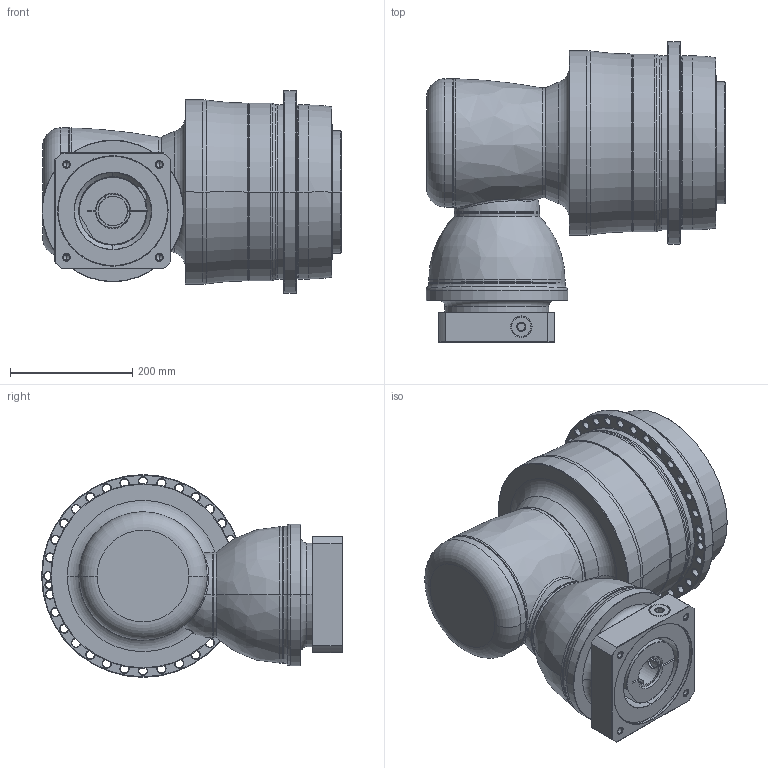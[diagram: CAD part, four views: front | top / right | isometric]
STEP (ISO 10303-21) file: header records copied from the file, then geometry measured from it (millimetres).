
FILE_DESCRIPTION((''),'2;1');
FILE_NAME('APK285_3ST_48-P0409B10201_ASM','2018-11-22T',('D00080'),(''),'PRO/ENGINEER BY PARAMETRIC TECHNOLOGY CORPORATION, 2015240','PRO/ENGINEER BY PARAMETRIC TECHNOLOGY CORPORATION, 2015240','');
FILE_SCHEMA(('CONFIG_CONTROL_DESIGN'));
Length unit declared in the file: millimetre
Products named in the file (13): P1008600002; P1832810001; P0278801003; P0359801103; P1211800001; P1315600001; P1007601001; P1318610401; P0503B00016; P0912654001; P0409B10201; 21711426021; APK285_3ST_48-P0409B10201_ASM
Assembly tree (12 placements, depth 2):
  APK285_3ST_48-P0409B10201_ASM
    P1008600002
    P1832810001
    P0278801003
    P0359801103
    P1211800001
    P1315600001
    P1007601001
    P1318610401
    P0503B00016
    P0912654001
    P0409B10201
    21711426021
Bounding box: 491 x 492.5 x 332 mm (x, y, z)
Volume: 30233752.6 mm3; surface area: 1789567.4 mm2
Topology: 13 solids, 36 shells, 800 faces, 1823 edges, 1091 vertices
Faces by surface type: cylinder 310, cone 250, plane 121, torus 84, bspline 33, sphere 2
Entity records: 29240 total; most frequent: CARTESIAN_POINT 10550, DIRECTION 4285, ORIENTED_EDGE 3480, AXIS2_PLACEMENT_3D 1830, EDGE_CURVE 1787, VERTEX_POINT 1091, CIRCLE 1026, EDGE_LOOP 962
